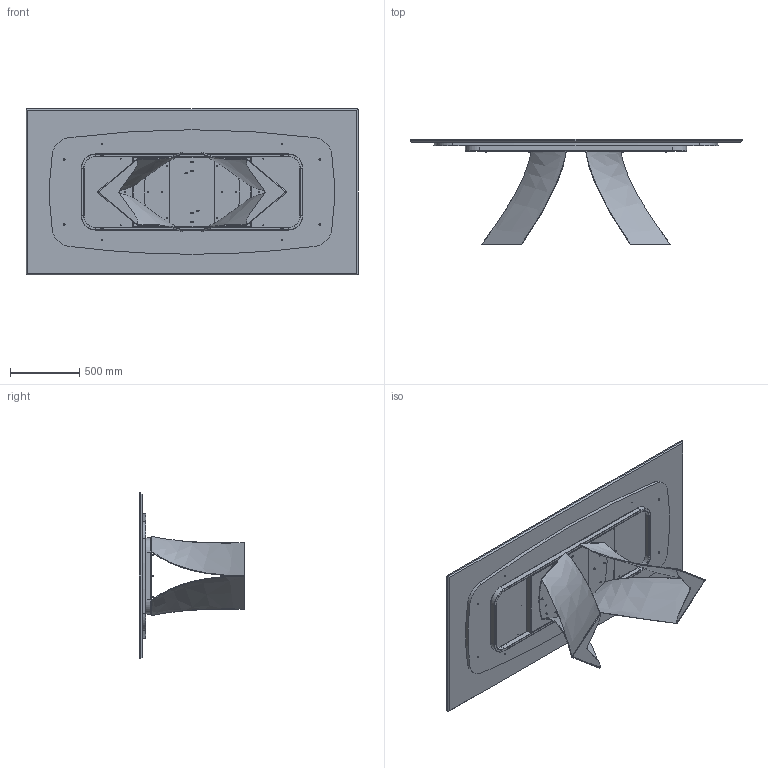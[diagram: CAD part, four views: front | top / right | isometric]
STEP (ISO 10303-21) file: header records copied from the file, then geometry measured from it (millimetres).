
FILE_DESCRIPTION (( 'STEP AP203' ), '1' );
FILE_NAME ('TW23M.STEP', '2024-08-07T12:40:13', ( '' ), ( '' ), 'SwSTEP 2.0', 'SolidWorks 2022', '' );
FILE_SCHEMA (( 'CONFIG_CONTROL_DESIGN' ));
Length unit declared in the file: millimetre
Products named in the file (11): rondella M8_8X16; TW23M; M8xXXmm_M8x20mm; M2XMXX-00-Piani rettangolari in marmo_2400x1200; TWS000000BAS-00-TWIST BASE GREZZA; M2X-00-Piani rettangolari marmo_2400*1200; TEALIO TEMP PER MANUALE; TTAV01_02-01-VASSOIO IRRIGIDIMENTO TELAIO UNIVERSALE; M8xXXmm_M8x55mm; TRUXXXXXX-00-NOBILITATO GR CON SUPP TRUCIOLARE SP. 25_TRU00007_2100x900; TUBOLARE TELAIO TEMP TWIST_Default<A macchina>
Assembly tree (40 placements, depth 3):
  TW23M
    M2XMXX-00-Piani rettangolari in marmo_2400x1200
      M2X-00-Piani rettangolari marmo_2400*1200
      TRUXXXXXX-00-NOBILITATO GR CON SUPP TRUCIOLARE SP. 25_TRU00007_2100x900
    TEALIO TEMP PER MANUALE
      TUBOLARE TELAIO TEMP TWIST_Default<A macchina>
      TTAV01_02-01-VASSOIO IRRIGIDIMENTO TELAIO UNIVERSALE
    TWS000000BAS-00-TWIST BASE GREZZA  x2
    M8xXXmm_M8x55mm  x4
    rondella M8_8X16  x16
    M8xXXmm_M8x20mm  x12
Bounding box: 2400 x 760.37 x 1200 mm (x, y, z)
Volume: 110658350.6 mm3; surface area: 13850932.9 mm2
Topology: 53 solids, 53 shells, 1331 faces, 3131 edges, 1871 vertices
Faces by surface type: plane 474, cylinder 345, torus 224, cone 222, bspline 66
Entity records: 26293 total; most frequent: CARTESIAN_POINT 9599, DIRECTION 3157, ORIENTED_EDGE 2988, EDGE_CURVE 1494, AXIS2_PLACEMENT_3D 1189, VERTEX_POINT 960, LINE 779, VECTOR 779
